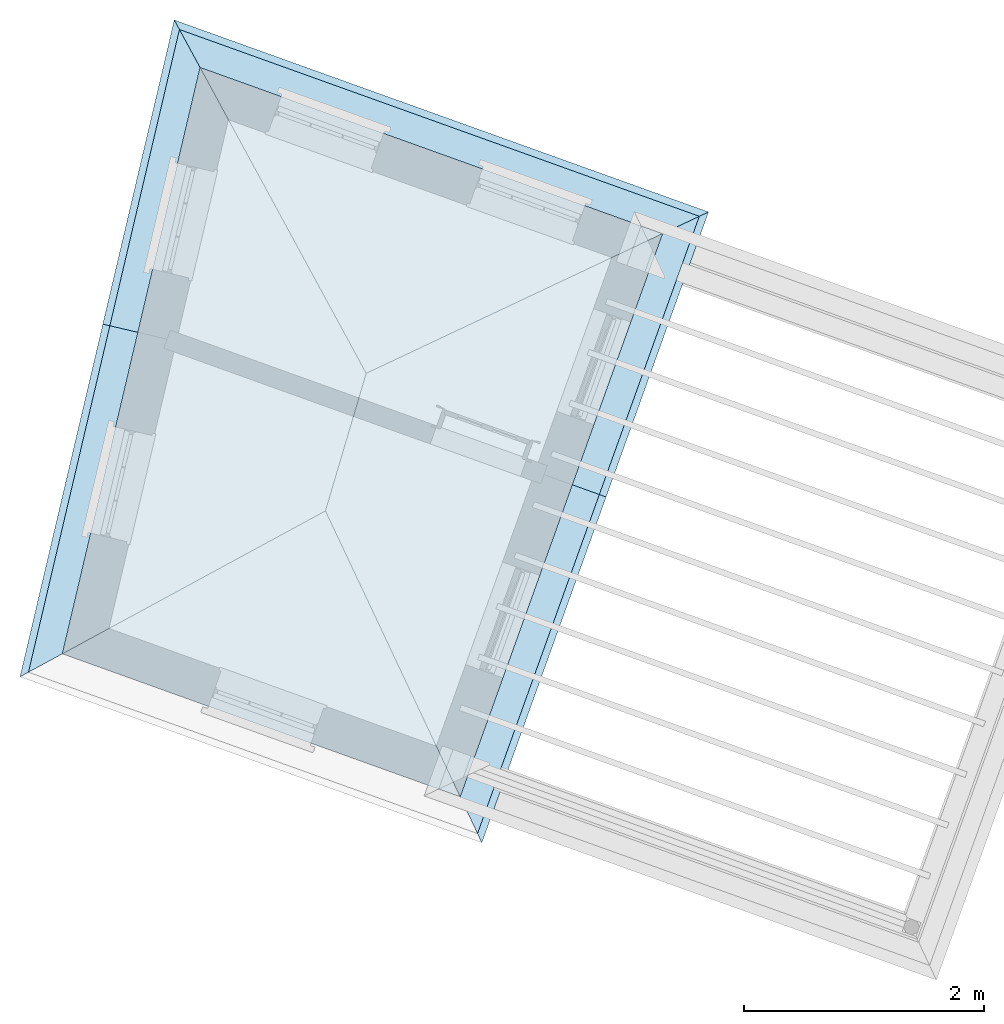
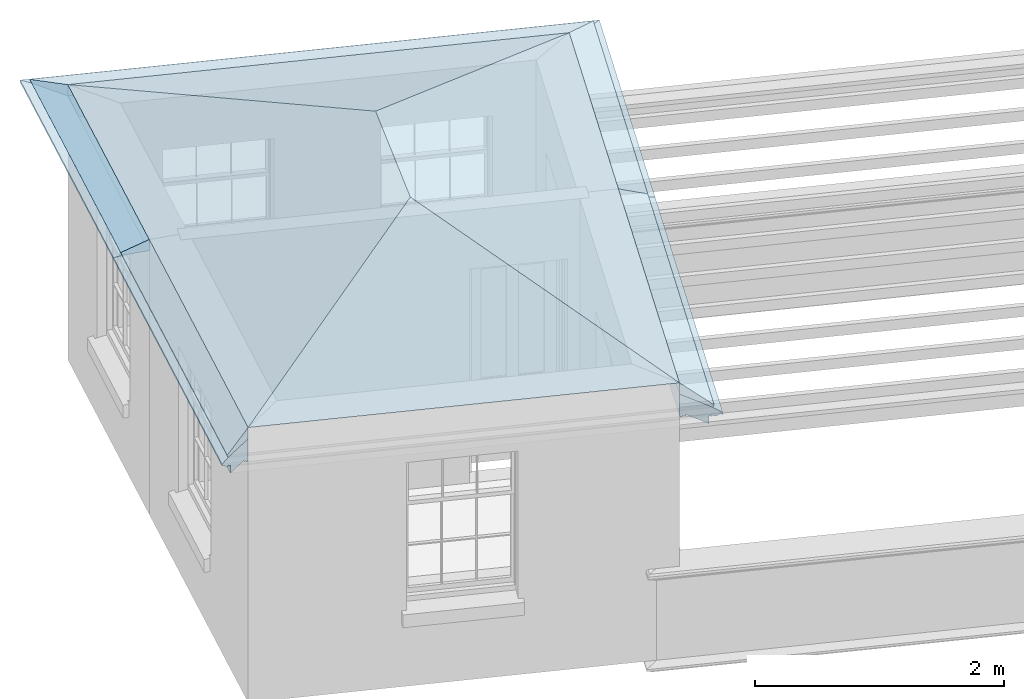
# One storey, part 5 of 5: 11 roofs.
"""IFC4 building model written with IfcOpenShell, lengths in metres."""

from ifc_helpers import new_model, si_unit, frame, origin, origin_with_axes, place, context, subcontext, project, spatial, polyline, outline, extrude, clip, halfspace, faceted_brep, material_profile, profile_set, profile_usage, type_object, element, save


model = new_model("IFC4")

# Units and contexts
model_context = context("Model", 3, world=origin_with_axes())
body_context = subcontext(model_context, "Body", "Model", "MODEL_VIEW")
ifc_project = project(units=[si_unit("PLANEANGLEUNIT", "RADIAN"), si_unit("MASSUNIT", "GRAM", prefix="KILO"), si_unit("FORCEUNIT", "NEWTON", prefix="KILO"), si_unit("LENGTHUNIT", "METRE"), si_unit("AREAUNIT", "SQUARE_METRE"), si_unit("VOLUMEUNIT", "CUBIC_METRE")], contexts=[model_context, model_context])

# Sites, building, storey
site_1_placement = place(None, origin_with_axes())
site_1 = spatial("IfcSite", under=ifc_project, at=site_1_placement, Name="Tamar")
site_2_placement = place(site_1_placement, origin_with_axes())
site_2 = spatial("IfcSite", under=site_1, at=site_2_placement, Name="Site plot-22", CompositionType="ELEMENT")
building_placement = place(None, origin_with_axes())
building = spatial("IfcBuilding", under=site_2, at=building_placement, Name="Building plot-22", CompositionType="ELEMENT")
storey_placement = place(None, frame((0.0, 0.0, 30.5), z_axis=(0.0, 0.0, 1.0), x_axis=(1.0, 0.0, 0.0)))
storey = spatial("IfcBuildingStorey", under=building, at=storey_placement, Name="plot-22 2", CompositionType="ELEMENT", Elevation=30.5)

# Roofs
ifc_material_profile_1 = material_profile(None, outline(polyline([(0.25, -0.11), (0.25, -0.33), (0.265, -0.33), (0.268, -0.318), (0.274, -0.309), (0.283, -0.303), (0.295, -0.3), (0.295, -0.285), (0.455, -0.285), (0.455, -0.205), (0.47, -0.205), (0.47, -0.19), (0.483, -0.189), (0.494, -0.186), (0.506, -0.179), (0.514, -0.17), (0.52, -0.16), (0.529, -0.149), (0.539, -0.143), (0.55, -0.14), (0.55, -0.12), (0.48, -0.11), (0.25, -0.11)])))
ifc_profile_set_1 = profile_set([ifc_material_profile_1])
ifc_profile_usage_1 = profile_usage(ifc_profile_set_1)
roof_type_1 = type_object("IfcRoofType", Name="eaves_0", PredefinedType="FREEFORM", material=ifc_profile_set_1)
roof_1_placement = place(storey_placement, frame((254.767789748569, 275.965012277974, 2.7), z_axis=(-0.338164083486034, -0.941087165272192, 0.0), x_axis=(0.941087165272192, -0.338164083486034, 0.0)))
element("IfcRoof", 1, at=roof_1_placement, inside=storey, type_object=roof_type_1, material=ifc_profile_usage_1, Name="eaves_0", context=body_context, shape_type="Clipping", body=[
    clip(clip(extrude(outline(polyline([(0.25, -0.11), (0.25, -0.33), (0.265, -0.33), (0.268, -0.318), (0.274, -0.309), (0.283, -0.303), (0.295, -0.3), (0.295, -0.285), (0.455, -0.285), (0.455, -0.205), (0.47, -0.205), (0.47, -0.19), (0.483, -0.189), (0.494, -0.186), (0.506, -0.179), (0.514, -0.17), (0.52, -0.16), (0.529, -0.149), (0.539, -0.143), (0.55, -0.14), (0.55, -0.12), (0.48, -0.11), (0.25, -0.11)])), origin_with_axes(), (0.0, 0.0, 1.0), 3.97537913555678), halfspace(frame((0.0, 0.0, 2.97537913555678), z_axis=(-5.00212684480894e-14, 0.0, -1.0), x_axis=(0.0, 1.0, 0.0)), True)), halfspace(frame((0.0, 0.0, 1.0), z_axis=(-0.707106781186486, 0.0, -0.707106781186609), x_axis=(0.0, 1.0, 0.0)), False)),
])
ifc_profile_usage_2 = profile_usage(ifc_profile_set_1)
roof_2_placement = place(storey_placement, frame((250.131250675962, 276.568474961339, 2.7), z_axis=(0.941087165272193, -0.338164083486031, 0.0), x_axis=(0.338164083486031, 0.941087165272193, 0.0)))
element("IfcRoof", 2, at=roof_2_placement, inside=storey, type_object=roof_type_1, material=ifc_profile_usage_2, Name="eaves_0", context=body_context, shape_type="Clipping", body=[
    clip(clip(extrude(outline(polyline([(0.25, -0.11), (0.25, -0.33), (0.265, -0.33), (0.268, -0.318), (0.274, -0.309), (0.283, -0.303), (0.295, -0.3), (0.295, -0.285), (0.455, -0.285), (0.455, -0.205), (0.47, -0.205), (0.47, -0.19), (0.483, -0.189), (0.494, -0.186), (0.506, -0.179), (0.514, -0.17), (0.52, -0.16), (0.529, -0.149), (0.539, -0.143), (0.55, -0.14), (0.55, -0.12), (0.48, -0.11), (0.25, -0.11)])), origin_with_axes(), (0.0, 0.0, 1.0), 5.56745681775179), halfspace(frame((0.0, 0.0, 4.56745681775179), z_axis=(0.707106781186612, 0.0, -0.707106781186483), x_axis=(0.0, 1.0, 0.0)), True)), halfspace(frame((0.0, 0.0, 1.0), z_axis=(-0.746331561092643, 0.0, -0.665574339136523), x_axis=(0.0, 1.0, 0.0)), False)),
])
ifc_profile_usage_3 = profile_usage(ifc_profile_set_1)
roof_3_placement = place(storey_placement, frame((250.389039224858, 273.321132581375, 2.7), z_axis=(0.228654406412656, 0.973507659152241, 0.0), x_axis=(-0.973507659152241, 0.228654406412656, 0.0)))
element("IfcRoof", 3, at=roof_3_placement, inside=storey, type_object=roof_type_1, material=ifc_profile_usage_3, Name="eaves_0", context=body_context, shape_type="Clipping", body=[
    clip(clip(extrude(outline(polyline([(0.25, -0.11), (0.25, -0.33), (0.265, -0.33), (0.268, -0.318), (0.274, -0.309), (0.283, -0.303), (0.295, -0.3), (0.295, -0.285), (0.455, -0.285), (0.455, -0.205), (0.47, -0.205), (0.47, -0.19), (0.483, -0.189), (0.494, -0.186), (0.506, -0.179), (0.514, -0.17), (0.52, -0.16), (0.529, -0.149), (0.539, -0.143), (0.55, -0.14), (0.55, -0.12), (0.48, -0.11), (0.25, -0.11)])), origin_with_axes(), (0.0, 0.0, 1.0), 3.98834659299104), halfspace(frame((0.0, 0.0, 2.98834659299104), z_axis=(0.746331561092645, 0.0, -0.66557433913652), x_axis=(0.0, 1.0, 0.0)), True)), halfspace(frame((0.0, 0.0, 1.0), z_axis=(4.37965975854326e-15, 0.0, -1.0), x_axis=(0.0, 1.0, 0.0)), False)),
])
ifc_profile_usage_4 = profile_usage(ifc_profile_set_1)
roof_4_placement = place(storey_placement, frame((249.810364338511, 270.857395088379, 2.7), z_axis=(0.228654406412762, 0.973507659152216, 0.0), x_axis=(-0.973507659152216, 0.228654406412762, 0.0)))
element("IfcRoof", 4, at=roof_4_placement, inside=storey, type_object=roof_type_1, material=ifc_profile_usage_4, Name="eaves_0", context=body_context, shape_type="Clipping", body=[
    clip(clip(extrude(outline(polyline([(0.25, -0.11), (0.25, -0.33), (0.265, -0.33), (0.268, -0.318), (0.274, -0.309), (0.283, -0.303), (0.295, -0.3), (0.295, -0.285), (0.455, -0.285), (0.455, -0.205), (0.47, -0.205), (0.47, -0.19), (0.483, -0.189), (0.494, -0.186), (0.506, -0.179), (0.514, -0.17), (0.52, -0.16), (0.529, -0.149), (0.539, -0.143), (0.55, -0.14), (0.55, -0.12), (0.48, -0.11), (0.25, -0.11)])), origin_with_axes(), (0.0, 0.0, 1.0), 4.5307838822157), halfspace(frame((0.0, 0.0, 3.5307838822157), z_axis=(-1.04866285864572e-13, 0.0, -1.0), x_axis=(0.0, 1.0, 0.0)), True)), halfspace(frame((0.0, 0.0, 1.0), z_axis=(-0.665574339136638, 0.0, -0.74633156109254), x_axis=(0.0, 1.0, 0.0)), False)),
])
ifc_profile_usage_5 = profile_usage(ifc_profile_set_1)
roof_5_placement = place(storey_placement, frame((254.099787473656, 274.106008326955, 2.7), z_axis=(-0.338164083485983, -0.941087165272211, 0.0), x_axis=(0.941087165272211, -0.338164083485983, 0.0)))
element("IfcRoof", 5, at=roof_5_placement, inside=storey, type_object=roof_type_1, material=ifc_profile_usage_5, Name="eaves_0", context=body_context, shape_type="Clipping", body=[
    clip(clip(extrude(outline(polyline([(0.25, -0.11), (0.25, -0.33), (0.265, -0.33), (0.268, -0.318), (0.274, -0.309), (0.283, -0.303), (0.295, -0.3), (0.295, -0.285), (0.455, -0.285), (0.455, -0.205), (0.47, -0.205), (0.47, -0.19), (0.483, -0.189), (0.494, -0.186), (0.506, -0.179), (0.514, -0.17), (0.52, -0.16), (0.529, -0.149), (0.539, -0.143), (0.55, -0.14), (0.55, -0.12), (0.48, -0.11), (0.25, -0.11)])), origin_with_axes(), (0.0, 0.0, 1.0), 4.51427879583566), halfspace(frame((0.0, 0.0, 3.51427879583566), z_axis=(0.707106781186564, 0.0, -0.707106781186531), x_axis=(0.0, 1.0, 0.0)), True)), halfspace(frame((0.0, 0.0, 1.0), z_axis=(4.82374896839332e-15, 0.0, -1.0), x_axis=(0.0, 1.0, 0.0)), False)),
])
ifc_material_profile_2 = material_profile(None, outline(polyline([(0.25, -0.11), (0.48, -0.11), (0.49, -0.08), (0.25, 0.0), (0.25, -0.11)])))
ifc_profile_set_2 = profile_set([ifc_material_profile_2])
ifc_profile_usage_6 = profile_usage(ifc_profile_set_2)
roof_type_2 = type_object("IfcRoofType", Name="eaves_1", PredefinedType="FREEFORM", material=ifc_profile_set_2)
roof_6_placement = place(storey_placement, frame((254.767789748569, 275.965012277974, 2.7), z_axis=(-0.338164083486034, -0.941087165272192, 0.0), x_axis=(0.941087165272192, -0.338164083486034, 0.0)))
element("IfcRoof", 6, at=roof_6_placement, inside=storey, type_object=roof_type_2, material=ifc_profile_usage_6, Name="eaves_1", context=body_context, shape_type="Clipping", body=[
    clip(clip(extrude(outline(polyline([(0.25, -0.11), (0.48, -0.11), (0.49, -0.08), (0.25, 0.0), (0.25, -0.11)])), origin_with_axes(), (0.0, 0.0, 1.0), 3.97537913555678), halfspace(frame((0.0, 0.0, 2.97537913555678), z_axis=(-5.00212684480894e-14, 0.0, -1.0), x_axis=(0.0, 1.0, 0.0)), True)), halfspace(frame((0.0, 0.0, 1.0), z_axis=(-0.707106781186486, 0.0, -0.707106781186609), x_axis=(0.0, 1.0, 0.0)), False)),
])
ifc_profile_usage_7 = profile_usage(ifc_profile_set_2)
roof_7_placement = place(storey_placement, frame((250.131250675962, 276.568474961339, 2.7), z_axis=(0.941087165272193, -0.338164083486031, 0.0), x_axis=(0.338164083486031, 0.941087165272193, 0.0)))
element("IfcRoof", 7, at=roof_7_placement, inside=storey, type_object=roof_type_2, material=ifc_profile_usage_7, Name="eaves_1", context=body_context, shape_type="Clipping", body=[
    clip(clip(extrude(outline(polyline([(0.25, -0.11), (0.48, -0.11), (0.49, -0.08), (0.25, 0.0), (0.25, -0.11)])), origin_with_axes(), (0.0, 0.0, 1.0), 5.56745681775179), halfspace(frame((0.0, 0.0, 4.56745681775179), z_axis=(0.707106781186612, 0.0, -0.707106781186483), x_axis=(0.0, 1.0, 0.0)), True)), halfspace(frame((0.0, 0.0, 1.0), z_axis=(-0.746331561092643, 0.0, -0.665574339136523), x_axis=(0.0, 1.0, 0.0)), False)),
])
ifc_profile_usage_8 = profile_usage(ifc_profile_set_2)
roof_8_placement = place(storey_placement, frame((250.389039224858, 273.321132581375, 2.7), z_axis=(0.228654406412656, 0.973507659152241, 0.0), x_axis=(-0.973507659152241, 0.228654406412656, 0.0)))
element("IfcRoof", 8, at=roof_8_placement, inside=storey, type_object=roof_type_2, material=ifc_profile_usage_8, Name="eaves_1", context=body_context, shape_type="Clipping", body=[
    clip(clip(extrude(outline(polyline([(0.25, -0.11), (0.48, -0.11), (0.49, -0.08), (0.25, 0.0), (0.25, -0.11)])), origin_with_axes(), (0.0, 0.0, 1.0), 3.98834659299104), halfspace(frame((0.0, 0.0, 2.98834659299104), z_axis=(0.746331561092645, 0.0, -0.66557433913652), x_axis=(0.0, 1.0, 0.0)), True)), halfspace(frame((0.0, 0.0, 1.0), z_axis=(4.37965975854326e-15, 0.0, -1.0), x_axis=(0.0, 1.0, 0.0)), False)),
])
ifc_profile_usage_9 = profile_usage(ifc_profile_set_2)
roof_9_placement = place(storey_placement, frame((249.810364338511, 270.857395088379, 2.7), z_axis=(0.228654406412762, 0.973507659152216, 0.0), x_axis=(-0.973507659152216, 0.228654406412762, 0.0)))
element("IfcRoof", 9, at=roof_9_placement, inside=storey, type_object=roof_type_2, material=ifc_profile_usage_9, Name="eaves_1", context=body_context, shape_type="Clipping", body=[
    clip(clip(extrude(outline(polyline([(0.25, -0.11), (0.48, -0.11), (0.49, -0.08), (0.25, 0.0), (0.25, -0.11)])), origin_with_axes(), (0.0, 0.0, 1.0), 4.5307838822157), halfspace(frame((0.0, 0.0, 3.5307838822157), z_axis=(-1.04866285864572e-13, 0.0, -1.0), x_axis=(0.0, 1.0, 0.0)), True)), halfspace(frame((0.0, 0.0, 1.0), z_axis=(-0.665574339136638, 0.0, -0.74633156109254), x_axis=(0.0, 1.0, 0.0)), False)),
])
ifc_profile_usage_10 = profile_usage(ifc_profile_set_2)
roof_10_placement = place(storey_placement, frame((254.099787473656, 274.106008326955, 2.7), z_axis=(-0.338164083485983, -0.941087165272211, 0.0), x_axis=(0.941087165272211, -0.338164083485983, 0.0)))
element("IfcRoof", 10, at=roof_10_placement, inside=storey, type_object=roof_type_2, material=ifc_profile_usage_10, Name="eaves_1", context=body_context, shape_type="Clipping", body=[
    clip(clip(extrude(outline(polyline([(0.25, -0.11), (0.48, -0.11), (0.49, -0.08), (0.25, 0.0), (0.25, -0.11)])), origin_with_axes(), (0.0, 0.0, 1.0), 4.51427879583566), halfspace(frame((0.0, 0.0, 3.51427879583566), z_axis=(0.707106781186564, 0.0, -0.707106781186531), x_axis=(0.0, 1.0, 0.0)), True)), halfspace(frame((0.0, 0.0, 1.0), z_axis=(4.82374896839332e-15, 0.0, -1.0), x_axis=(0.0, 1.0, 0.0)), False)),
])
roof_11_placement = place(building_placement, origin())
element("IfcRoof", 11, at=roof_11_placement, inside=storey, Name="Roof", PredefinedType="FREEFORM", context=body_context, shape_type="Brep", body=[
    faceted_brep([(253.062115, 270.478953, 33.2), (254.749438, 275.174656, 33.2), (252.278304, 274.009987, 34.000138), (251.938642, 272.862681, 33.971836), (250.89306, 276.560381, 33.2), (249.744664, 271.671024, 33.2)], [[[0, 1, 2, 3]], [[4, 5, 3, 2]], [[5, 4, 1, 0]], [[5, 0, 3]], [[1, 4, 2]]]),
])

save(model, "model.ifc")
